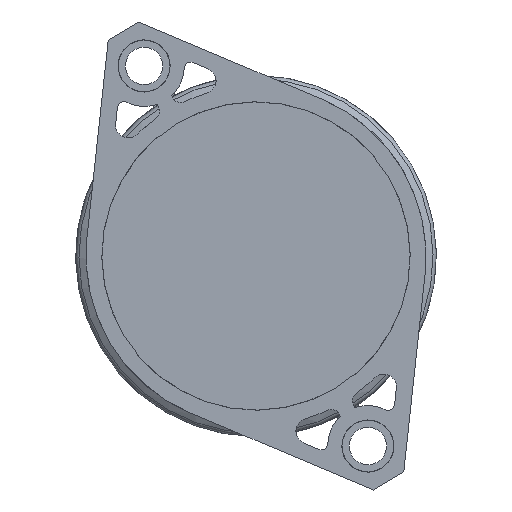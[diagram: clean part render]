
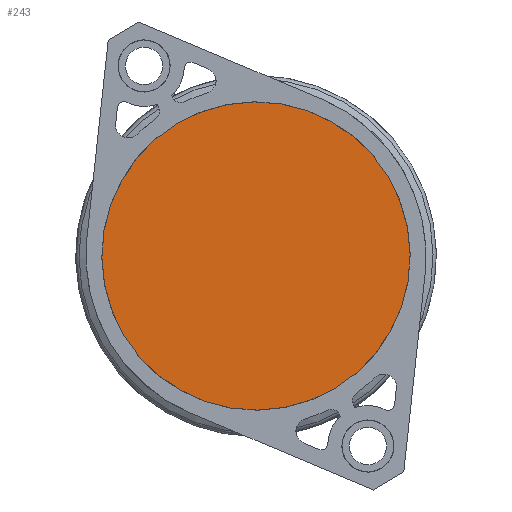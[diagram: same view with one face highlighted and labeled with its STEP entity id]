
A CAD part, front view. The second image highlights one B-rep face of the part: STEP entity #243.
In plain terms, the highlighted planar face has unit normal (0, -1, 0).
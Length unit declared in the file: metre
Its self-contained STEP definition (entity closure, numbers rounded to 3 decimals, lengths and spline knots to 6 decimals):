
#243 = ADVANCED_FACE( 'NONE', ( #924 ), #925, .T. );
#924 = FACE_OUTER_BOUND( '', #2336, .T. );
#925 = PLANE( '', #2337 );
#2336 = EDGE_LOOP( '', ( #5764 ) );
#2337 = AXIS2_PLACEMENT_3D( '', #5765, #5766, #5767 );
#5764 = ORIENTED_EDGE( '', *, *, #11509, .F. );
#5765 = CARTESIAN_POINT( '', ( 0., -0.016133, 0. ) );
#5766 = DIRECTION( '', ( 0., -1., 0. ) );
#5767 = DIRECTION( '', ( 0., 0., -1. ) );
#11509 = EDGE_CURVE( 'NONE', #13356, #13356, #13357, .T. );
#13356 = VERTEX_POINT( '', #16452 );
#13357 = CIRCLE( '', #16453, 0.023935 );
#16452 = CARTESIAN_POINT( '', ( 0., -0.016133, -0.023935 ) );
#16453 = AXIS2_PLACEMENT_3D( '', #22219, #22220, #22221 );
#22219 = CARTESIAN_POINT( '', ( 0., -0.016133, 0. ) );
#22220 = DIRECTION( '', ( 0., 1., 0. ) );
#22221 = DIRECTION( '', ( 0., 0., -1. ) );
